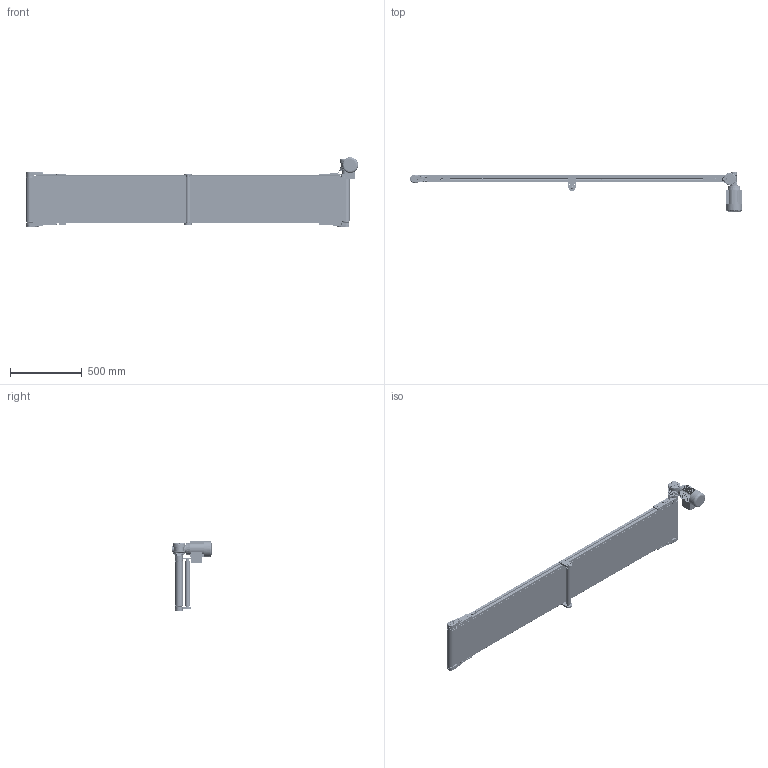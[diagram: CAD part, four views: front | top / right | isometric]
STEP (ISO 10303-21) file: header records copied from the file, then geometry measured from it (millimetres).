
FILE_DESCRIPTION (( 'STEP AP203' ), '1' );
FILE_NAME ('NASTRO_RETTILINEO_TAPPETO.step', '2026-05-29T09:10:43', ( 'Utente Windows' ), ( '' ), 'SwSTEP 2.0', 'SolidWorks 2024', '' );
FILE_SCHEMA (( 'CONFIG_CONTROL_DESIGN' ));
Length unit declared in the file: millimetre
Products named in the file (49): 14UNI7435; VITE_RONDELLA_M8X20; VITI TSEI UNI 5933 INOX_0412UNI5933A2; VITE_DADO_M5X12; 084.802.028; 084.810.001; VITI TSEI UNI 5933_M4x10 UNI 5933; CH03P_DX; TAPPETO_STANDARD; TELAIO_50_STANDARD_Default<A macchina>; 0820ISO2342; VITI TCEI UNI 5931_M4x25 UNI 5931; 084.301.000 VITI ALUSIC_084.301.009; 084.808.012; BLOCCO_REGGITAPPETO; BLOCCO_PERNO_50_30; 084.807.002_084.807.002; RONDELLE FASCIA LARGA UNI 6593_5.4x20 UNI 6593; LAMIERA_STANDARD; 084.302.000 DADI ALUSIC 13x13_084.302.004; 084.802.065_Default<A macchina>; 084.302.000 DADI ALUSIC 13x13-1_084.302.007; 084.802.061; NASTRO_RETTILINEO_TAPPETO; VITI TSEI UNI 5933_M5x12 UNI 5933; 084.802.017_084.802.017; VITI TE UNI 5739_M6x16 UNI 5739; 084.802.008; 084.303.001; RULLO_50_Default<A macchina>; BLOCCO_TRAINO_50_STANDARD; 084.811.001; 084.802.071; 084.802.014; 084.803.018; 084.301.000 VITI ALUSIC_084.301.003; 084.802.013-2; 084.807.003_084.807.003<A macchina>; 084.802.062; BLOCCO_TRAINO_50_STANDARD_30_DX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
Assembly tree (103 placements, depth 4):
  NASTRO_RETTILINEO_TAPPETO
    TAPPETO_STANDARD
    TELAIO_50_STANDARD_Default<A macchina>
    LAMIERA_STANDARD
    RULLO_50_Default<A macchina>  x2
    BLOCCO_PERNO_50_30
      084.810.001
      084.811.001
      RONDELLE FASCIA LARGA UNI 6593_5.4x20 UNI 6593
      084.301.000 VITI ALUSIC_084.301.009
      CHIAVETTE_A 5x5x40 UNI 6604-69
      CHIAVETTE_A 5x5x20 UNI 6604-69
      14UNI7435
    BLOCCO_TRAINO_50_STANDARD_30_DX
      084.807.003_084.807.003<A macchina>
      084.802.017_084.802.017
      084.301.000 VITI ALUSIC_084.301.003  x2
      084.302.000 DADI ALUSIC 13x13-1_084.302.004  x2
      BLOCCO_BRACCIO_CH03P_VF30P
        084.808.012
        084.802.062
        0820ISO2342
        084.802.061
        VITI TE UNI 5739_M6x16 UNI 5739  x4
        084.803.018
        VITI TCEI UNI 5931_M6x12 UNI 5931  x4
      084.802.065_Default<A macchina>
      VITI TCEI UNI 5931_M4x25 UNI 5931  x2
    BLOCCO_PERNO_50_RINVIO  x3
      084.811.004
      084.810.001
    BLOCCO_TRAINO_50_STANDARD
      084.807.002_084.807.002
      084.802.017_084.802.017
      084.301.000 VITI ALUSIC_084.301.003  x2
      084.302.000 DADI ALUSIC 13x13-1_084.302.004  x2
      084.802.071
      VITI TSEI UNI 5933 INOX_0412UNI5933A2  x2
    BLOCCO_RINVIO_50_STANDARD  x2
      084.807.002_084.807.002
      084.802.017_084.802.017
      084.802.008
      084.301.000 VITI ALUSIC_084.301.003
      084.302.000 DADI ALUSIC 13x13_084.302.004
      VITI TSEI UNI 5933_M4x10 UNI 5933
      084.802.071
    VITE_RONDELLA_M8X20  x9
      084.303.001
      084.301.000 VITI ALUSIC_084.301.003
    VITE_DADO_M5X12  x12
      084.302.000 DADI ALUSIC 13x13-1_084.302.007
      VITI TSEI UNI 5933_M5x12 UNI 5933
    BLOCCO_REGGITAPPETO  x2
      084.301.000 VITI ALUSIC_084.301.003
      084.302.000 DADI ALUSIC 13x13-1_084.302.004
      084.802.017_084.802.017
      084.802.028
      084.802.014
      084.802.013-2
    RULLO_REGGITAPPETO
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Bounding box: 2312 x 273 x 485 mm (x, y, z)
Volume: 10285966.3 mm3; surface area: 8413247.1 mm2
Topology: 162 solids, 170 shells, 7953 faces, 20728 edges, 13289 vertices
Faces by surface type: plane 4034, cylinder 2322, cone 621, bspline 525, torus 405, sphere 46
Entity records: 169881 total; most frequent: CARTESIAN_POINT 48395, ORIENTED_EDGE 25070, DIRECTION 22876, EDGE_CURVE 12535, VERTEX_POINT 8080, AXIS2_PLACEMENT_3D 7789, VECTOR 7298, LINE 7298
